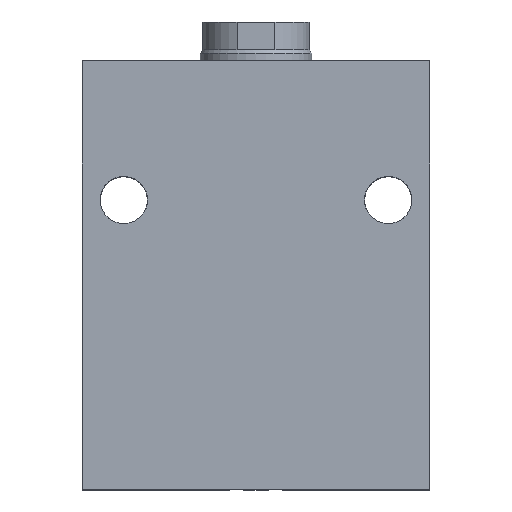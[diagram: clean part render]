
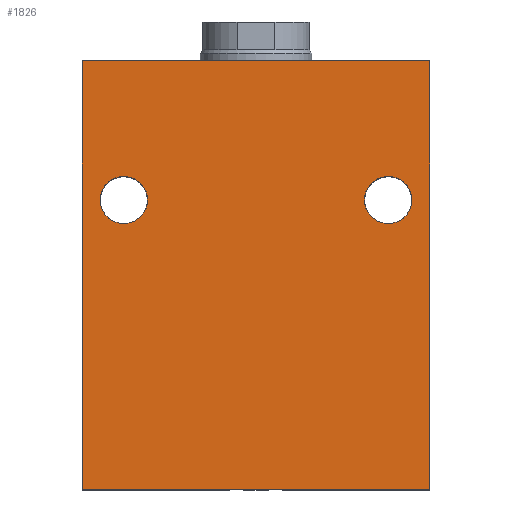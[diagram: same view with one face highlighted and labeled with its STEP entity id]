
A CAD part, top view. The second image highlights one B-rep face of the part: STEP entity #1826.
In plain terms, the highlighted planar face has unit normal (0, 0, 1).
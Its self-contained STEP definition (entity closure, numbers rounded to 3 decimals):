
#9 = VERTEX_POINT ( 'NONE', #874 ) ;
#43 = EDGE_LOOP ( 'NONE', ( #3201, #3016 ) ) ;
#114 = CIRCLE ( 'NONE', #2794, 8.5 ) ;
#161 = LINE ( 'NONE', #3808, #472 ) ;
#191 = VERTEX_POINT ( 'NONE', #235 ) ;
#204 = VECTOR ( 'NONE', #2315, 1000. ) ;
#235 = CARTESIAN_POINT ( 'NONE',  ( 62.5, 0., 47.5 ) ) ;
#293 = ORIENTED_EDGE ( 'NONE', *, *, #3869, .F. ) ;
#323 = CARTESIAN_POINT ( 'NONE',  ( 47.5, 104., 47.5 ) ) ;
#362 = ORIENTED_EDGE ( 'NONE', *, *, #2826, .F. ) ;
#472 = VECTOR ( 'NONE', #1857, 1000. ) ;
#522 = VECTOR ( 'NONE', #1679, 1000. ) ;
#660 = EDGE_LOOP ( 'NONE', ( #3960, #4245, #293, #2342 ) ) ;
#665 = DIRECTION ( 'NONE',  ( 1., 0., 0. ) ) ;
#874 = CARTESIAN_POINT ( 'NONE',  ( -39., 104., 47.5 ) ) ;
#1021 = DIRECTION ( 'NONE',  ( 0., 0., -1. ) ) ;
#1077 = DIRECTION ( 'NONE',  ( 0., 0., 1. ) ) ;
#1085 = LINE ( 'NONE', #3292, #204 ) ;
#1120 = CARTESIAN_POINT ( 'NONE',  ( 62.5, 154., 47.5 ) ) ;
#1124 = CARTESIAN_POINT ( 'NONE',  ( 39., 104., 47.5 ) ) ;
#1171 = VERTEX_POINT ( 'NONE', #3325 ) ;
#1281 = EDGE_CURVE ( 'NONE', #2695, #191, #3024, .T. ) ;
#1289 = ORIENTED_EDGE ( 'NONE', *, *, #3897, .F. ) ;
#1297 = VERTEX_POINT ( 'NONE', #3255 ) ;
#1360 = EDGE_CURVE ( 'NONE', #1171, #9, #114, .T. ) ;
#1378 = DIRECTION ( 'NONE',  ( 0., 0., 1. ) ) ;
#1438 = VERTEX_POINT ( 'NONE', #1124 ) ;
#1502 = EDGE_CURVE ( 'NONE', #1575, #191, #161, .T. ) ;
#1575 = VERTEX_POINT ( 'NONE', #2219 ) ;
#1640 = FACE_OUTER_BOUND ( 'NONE', #660, .T. ) ;
#1679 = DIRECTION ( 'NONE',  ( 0., -1., 0. ) ) ;
#1814 = AXIS2_PLACEMENT_3D ( 'NONE', #2172, #2216, #2232 ) ;
#1826 = ADVANCED_FACE ( 'NONE', ( #4230, #4131, #1640 ), #3021, .F. ) ;
#1857 = DIRECTION ( 'NONE',  ( 1., 0., 0. ) ) ;
#1860 = EDGE_CURVE ( 'NONE', #9, #1171, #2420, .T. ) ;
#1911 = AXIS2_PLACEMENT_3D ( 'NONE', #2338, #1021, #3348 ) ;
#2138 = AXIS2_PLACEMENT_3D ( 'NONE', #3373, #1378, #3702 ) ;
#2172 = CARTESIAN_POINT ( 'NONE',  ( 47.5, 104., 47.5 ) ) ;
#2216 = DIRECTION ( 'NONE',  ( 0., 0., 1. ) ) ;
#2219 = CARTESIAN_POINT ( 'NONE',  ( -62.5, 0., 47.5 ) ) ;
#2232 = DIRECTION ( 'NONE',  ( 1., 0., 0. ) ) ;
#2308 = LINE ( 'NONE', #3653, #522 ) ;
#2315 = DIRECTION ( 'NONE',  ( 1., 0., 0. ) ) ;
#2338 = CARTESIAN_POINT ( 'NONE',  ( -62.5, 91., 47.5 ) ) ;
#2342 = ORIENTED_EDGE ( 'NONE', *, *, #3344, .T. ) ;
#2420 = CIRCLE ( 'NONE', #2138, 8.5 ) ;
#2652 = DIRECTION ( 'NONE',  ( 0., 0., 1. ) ) ;
#2691 = CARTESIAN_POINT ( 'NONE',  ( 62.5, 91., 47.5 ) ) ;
#2695 = VERTEX_POINT ( 'NONE', #1120 ) ;
#2794 = AXIS2_PLACEMENT_3D ( 'NONE', #3075, #1077, #3406 ) ;
#2826 = EDGE_CURVE ( 'NONE', #1297, #1438, #3076, .T. ) ;
#3016 = ORIENTED_EDGE ( 'NONE', *, *, #1360, .F. ) ;
#3021 = PLANE ( 'NONE',  #1911 ) ;
#3024 = LINE ( 'NONE', #2691, #3739 ) ;
#3075 = CARTESIAN_POINT ( 'NONE',  ( -47.5, 104., 47.5 ) ) ;
#3076 = CIRCLE ( 'NONE', #1814, 8.5 ) ;
#3201 = ORIENTED_EDGE ( 'NONE', *, *, #1860, .F. ) ;
#3255 = CARTESIAN_POINT ( 'NONE',  ( 56., 104., 47.5 ) ) ;
#3292 = CARTESIAN_POINT ( 'NONE',  ( -62.5, 154., 47.5 ) ) ;
#3325 = CARTESIAN_POINT ( 'NONE',  ( -56., 104., 47.5 ) ) ;
#3344 = EDGE_CURVE ( 'NONE', #3502, #1575, #2308, .T. ) ;
#3348 = DIRECTION ( 'NONE',  ( -1., 0., 0. ) ) ;
#3373 = CARTESIAN_POINT ( 'NONE',  ( -47.5, 104., 47.5 ) ) ;
#3374 = AXIS2_PLACEMENT_3D ( 'NONE', #323, #2652, #665 ) ;
#3406 = DIRECTION ( 'NONE',  ( 1., 0., 0. ) ) ;
#3420 = CARTESIAN_POINT ( 'NONE',  ( -62.5, 154., 47.5 ) ) ;
#3502 = VERTEX_POINT ( 'NONE', #3420 ) ;
#3633 = CIRCLE ( 'NONE', #3374, 8.5 ) ;
#3653 = CARTESIAN_POINT ( 'NONE',  ( -62.5, 91., 47.5 ) ) ;
#3664 = DIRECTION ( 'NONE',  ( 0., -1., 0. ) ) ;
#3702 = DIRECTION ( 'NONE',  ( 1., 0., 0. ) ) ;
#3739 = VECTOR ( 'NONE', #3664, 1000. ) ;
#3808 = CARTESIAN_POINT ( 'NONE',  ( -62.5, 0., 47.5 ) ) ;
#3869 = EDGE_CURVE ( 'NONE', #3502, #2695, #1085, .T. ) ;
#3897 = EDGE_CURVE ( 'NONE', #1438, #1297, #3633, .T. ) ;
#3960 = ORIENTED_EDGE ( 'NONE', *, *, #1502, .T. ) ;
#4131 = FACE_BOUND ( 'NONE', #43, .T. ) ;
#4138 = EDGE_LOOP ( 'NONE', ( #362, #1289 ) ) ;
#4230 = FACE_BOUND ( 'NONE', #4138, .T. ) ;
#4245 = ORIENTED_EDGE ( 'NONE', *, *, #1281, .F. ) ;
